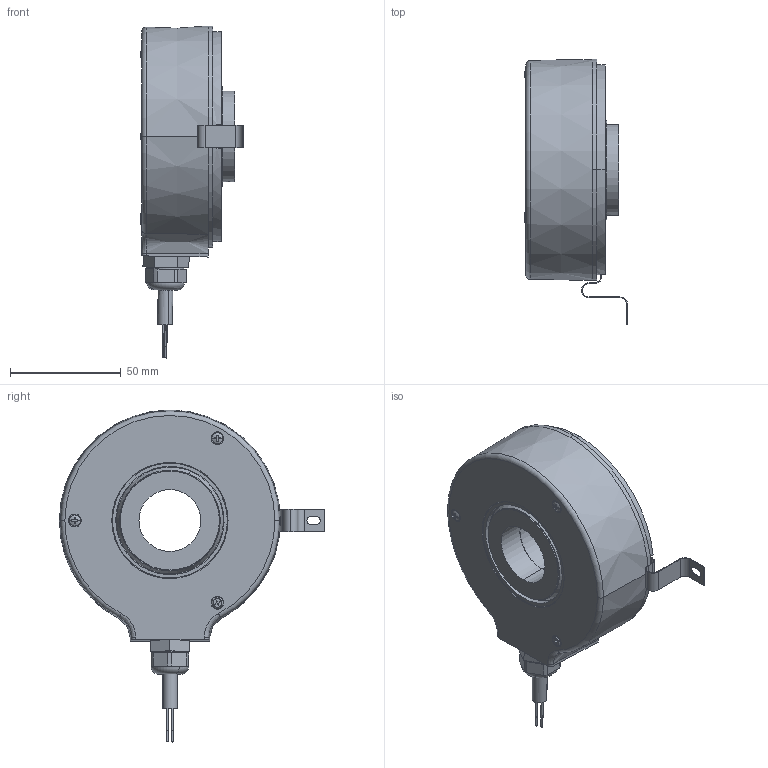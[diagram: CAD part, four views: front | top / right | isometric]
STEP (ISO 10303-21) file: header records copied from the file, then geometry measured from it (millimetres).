
FILE_DESCRIPTION (( 'STEP AP214' ), '1' );
FILE_NAME ('A020.43X1.XXXX.STEP', '2009-07-17T05:57:44', ( 'admin' ), ( 'Fritz Kübler GmbH' ), 'SwSTEP 2.0', 'SolidWorks 2009', '' );
FILE_SCHEMA (( 'AUTOMOTIVE_DESIGN' ));
Length unit declared in the file: millimetre
Products named in the file (1): A020.43X1.XXXX
Bounding box: 46.6 x 120 x 150.2 mm (x, y, z)
Volume: 163395.3 mm3; surface area: 84707.8 mm2
Topology: 18 solids, 18 shells, 626 faces, 1594 edges, 985 vertices
Faces by surface type: cylinder 212, plane 197, cone 113, sphere 52, torus 48, bspline 4
Entity records: 27509 total; most frequent: CARTESIAN_POINT 5733, DIRECTION 3251, ORIENTED_EDGE 2880, EDGE_CURVE 1440, AXIS2_PLACEMENT_3D 1336, VERTEX_POINT 913, EDGE_LOOP 773, CIRCLE 713
